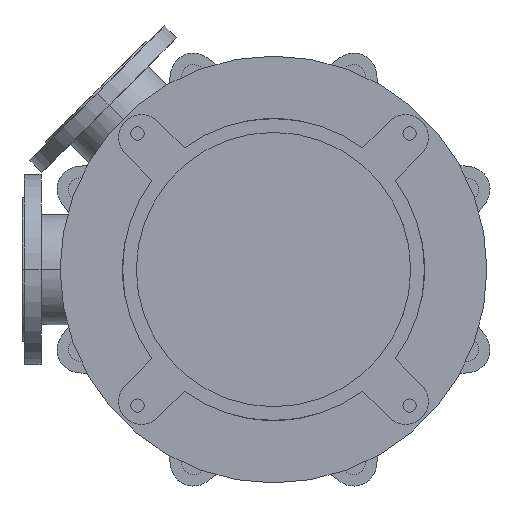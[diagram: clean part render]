
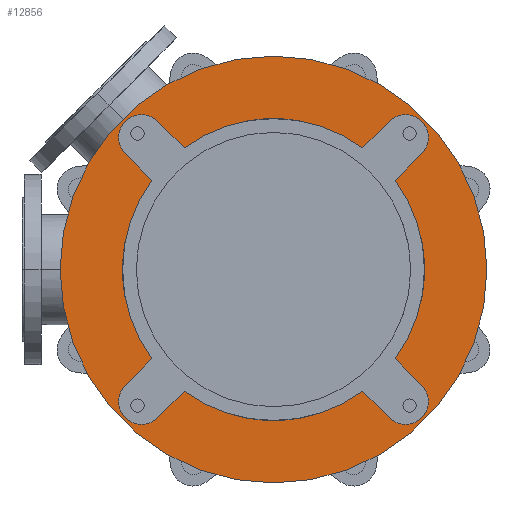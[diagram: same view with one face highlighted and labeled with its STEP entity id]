
A CAD part, front view. The second image highlights one B-rep face of the part: STEP entity #12856.
In plain terms, the highlighted planar face has unit normal (0, -1, 0).
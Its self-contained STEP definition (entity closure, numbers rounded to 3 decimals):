
#2487=CARTESIAN_POINT('',(0.,-25.,0.));
#2488=DIRECTION('',(0.,1.,0.));
#2489=DIRECTION('',(0.592,0.,-0.806));
#2490=AXIS2_PLACEMENT_3D('',#2487,#2488,#2489);
#2505=CARTESIAN_POINT('',(0.,-25.,0.));
#2506=DIRECTION('',(0.,1.,0.));
#2507=DIRECTION('',(0.806,0.,0.592));
#2508=AXIS2_PLACEMENT_3D('',#2505,#2506,#2507);
#2532=CARTESIAN_POINT('',(0.,-25.,0.));
#2533=DIRECTION('',(0.,1.,0.));
#2534=DIRECTION('',(-0.806,0.,-0.592));
#2535=AXIS2_PLACEMENT_3D('',#2532,#2533,#2534);
#2541=CARTESIAN_POINT('',(0.,-25.,0.));
#2542=DIRECTION('',(0.,1.,0.));
#2543=DIRECTION('',(-0.592,0.,0.806));
#2544=AXIS2_PLACEMENT_3D('',#2541,#2542,#2543);
#2719=CARTESIAN_POINT('',(0.,-25.,0.));
#2720=DIRECTION('',(0.,-1.,0.));
#2721=DIRECTION('',(-1.,0.,0.));
#2722=AXIS2_PLACEMENT_3D('',#2719,#2720,#2721);
#2724=CARTESIAN_POINT('',(0.,-25.,0.));
#2725=DIRECTION('',(0.,1.,0.));
#2726=DIRECTION('',(-1.,0.,0.));
#2727=AXIS2_PLACEMENT_3D('',#2724,#2725,#2726);
#2729=CARTESIAN_POINT('',(-173.241,-25.,173.241));
#2730=DIRECTION('',(0.,-1.,0.));
#2731=DIRECTION('',(0.707,0.,0.707));
#2732=AXIS2_PLACEMENT_3D('',#2729,#2730,#2731);
#2734=DIRECTION('',(0.707,0.,-0.707));
#2735=VECTOR('',#2734,49.286);
#2736=CARTESIAN_POINT('',(-194.454,-25.,152.028));
#2737=LINE('',#2736,#2735);
#2738=DIRECTION('',(-0.707,0.,-0.707));
#2739=VECTOR('',#2738,49.286);
#2740=CARTESIAN_POINT('',(-159.604,-25.,-117.178));
#2741=LINE('',#2740,#2739);
#2742=CARTESIAN_POINT('',(-173.241,-25.,-173.241));
#2743=DIRECTION('',(0.,-1.,0.));
#2744=DIRECTION('',(-0.707,0.,0.707));
#2745=AXIS2_PLACEMENT_3D('',#2742,#2743,#2744);
#2747=DIRECTION('',(0.707,0.,0.707));
#2748=VECTOR('',#2747,49.286);
#2749=CARTESIAN_POINT('',(-152.028,-25.,-194.454));
#2750=LINE('',#2749,#2748);
#2751=DIRECTION('',(0.707,0.,-0.707));
#2752=VECTOR('',#2751,49.286);
#2753=CARTESIAN_POINT('',(117.178,-25.,-159.604));
#2754=LINE('',#2753,#2752);
#2755=CARTESIAN_POINT('',(173.241,-25.,-173.241));
#2756=DIRECTION('',(0.,-1.,0.));
#2757=DIRECTION('',(-0.707,0.,-0.707));
#2758=AXIS2_PLACEMENT_3D('',#2755,#2756,#2757);
#2760=DIRECTION('',(-0.707,0.,0.707));
#2761=VECTOR('',#2760,49.286);
#2762=CARTESIAN_POINT('',(194.454,-25.,-152.028));
#2763=LINE('',#2762,#2761);
#2764=DIRECTION('',(0.707,0.,0.707));
#2765=VECTOR('',#2764,49.286);
#2766=CARTESIAN_POINT('',(159.604,-25.,117.178));
#2767=LINE('',#2766,#2765);
#2768=CARTESIAN_POINT('',(173.241,-25.,173.241));
#2769=DIRECTION('',(0.,-1.,0.));
#2770=DIRECTION('',(0.707,0.,-0.707));
#2771=AXIS2_PLACEMENT_3D('',#2768,#2769,#2770);
#2773=DIRECTION('',(-0.707,0.,-0.707));
#2774=VECTOR('',#2773,49.286);
#2775=CARTESIAN_POINT('',(152.028,-25.,194.454));
#2776=LINE('',#2775,#2774);
#2777=DIRECTION('',(-0.707,0.,0.707));
#2778=VECTOR('',#2777,49.286);
#2779=CARTESIAN_POINT('',(-117.178,-25.,159.604));
#2780=LINE('',#2779,#2778);
#8387=CARTESIAN_POINT('',(-280.,-25.,0.));
#8388=CARTESIAN_POINT('',(280.,-25.,0.));
#8389=VERTEX_POINT('',#8387);
#8390=VERTEX_POINT('',#8388);
#8411=CARTESIAN_POINT('',(-194.454,-25.,-152.028));
#8412=CARTESIAN_POINT('',(-152.028,-25.,-194.454));
#8413=VERTEX_POINT('',#8411);
#8414=VERTEX_POINT('',#8412);
#8415=CARTESIAN_POINT('',(-117.178,-25.,-159.604));
#8416=VERTEX_POINT('',#8415);
#8417=CARTESIAN_POINT('',(-159.604,-25.,-117.178));
#8418=VERTEX_POINT('',#8417);
#8427=CARTESIAN_POINT('',(152.028,-25.,-194.454));
#8428=CARTESIAN_POINT('',(194.454,-25.,-152.028));
#8429=VERTEX_POINT('',#8427);
#8430=VERTEX_POINT('',#8428);
#8431=CARTESIAN_POINT('',(159.604,-25.,-117.178));
#8432=VERTEX_POINT('',#8431);
#8433=CARTESIAN_POINT('',(117.178,-25.,-159.604));
#8434=VERTEX_POINT('',#8433);
#8443=CARTESIAN_POINT('',(194.454,-25.,152.028));
#8444=CARTESIAN_POINT('',(152.028,-25.,194.454));
#8445=VERTEX_POINT('',#8443);
#8446=VERTEX_POINT('',#8444);
#8447=CARTESIAN_POINT('',(117.178,-25.,159.604));
#8448=VERTEX_POINT('',#8447);
#8449=CARTESIAN_POINT('',(159.604,-25.,117.178));
#8450=VERTEX_POINT('',#8449);
#8459=CARTESIAN_POINT('',(-152.028,-25.,194.454));
#8460=CARTESIAN_POINT('',(-194.454,-25.,152.028));
#8461=VERTEX_POINT('',#8459);
#8462=VERTEX_POINT('',#8460);
#8463=CARTESIAN_POINT('',(-159.604,-25.,117.178));
#8464=VERTEX_POINT('',#8463);
#8465=CARTESIAN_POINT('',(-117.178,-25.,159.604));
#8466=VERTEX_POINT('',#8465);
#12816=CARTESIAN_POINT('',(0.,-25.,0.));
#12817=DIRECTION('',(0.,-1.,0.));
#12818=DIRECTION('',(-1.,0.,0.));
#12819=AXIS2_PLACEMENT_3D('',#12816,#12817,#12818);
#12820=PLANE('',#12819);
#12822=ORIENTED_EDGE('',*,*,#12821,.F.);
#12824=ORIENTED_EDGE('',*,*,#12823,.T.);
#12825=EDGE_LOOP('',(#12822,#12824));
#12826=FACE_OUTER_BOUND('',#12825,.F.);
#12828=ORIENTED_EDGE('',*,*,#12827,.T.);
#12830=ORIENTED_EDGE('',*,*,#12829,.T.);
#12831=ORIENTED_EDGE('',*,*,#12769,.F.);
#12833=ORIENTED_EDGE('',*,*,#12832,.T.);
#12835=ORIENTED_EDGE('',*,*,#12834,.T.);
#12837=ORIENTED_EDGE('',*,*,#12836,.T.);
#12838=ORIENTED_EDGE('',*,*,#12722,.F.);
#12839=ORIENTED_EDGE('',*,*,#12806,.T.);
#12841=ORIENTED_EDGE('',*,*,#12840,.T.);
#12843=ORIENTED_EDGE('',*,*,#12842,.T.);
#12844=ORIENTED_EDGE('',*,*,#12743,.F.);
#12846=ORIENTED_EDGE('',*,*,#12845,.T.);
#12848=ORIENTED_EDGE('',*,*,#12847,.T.);
#12850=ORIENTED_EDGE('',*,*,#12849,.T.);
#12851=ORIENTED_EDGE('',*,*,#12787,.F.);
#12853=ORIENTED_EDGE('',*,*,#12852,.T.);
#12854=EDGE_LOOP('',(#12828,#12830,#12831,#12833,#12835,#12837,#12838,#12839,
#12841,#12843,#12844,#12846,#12848,#12850,#12851,#12853));
#12855=FACE_BOUND('',#12854,.F.);
#12856=ADVANCED_FACE('',(#12826,#12855),#12820,.T.);
#2491=CIRCLE('',#2490,198.);
#2509=CIRCLE('',#2508,198.);
#2536=CIRCLE('',#2535,198.);
#2545=CIRCLE('',#2544,198.);
#2723=CIRCLE('',#2722,280.);
#2728=CIRCLE('',#2727,280.);
#2733=CIRCLE('',#2732,30.);
#2746=CIRCLE('',#2745,30.);
#2759=CIRCLE('',#2758,30.);
#2772=CIRCLE('',#2771,30.);
#12722=EDGE_CURVE('',#8434,#8416,#2491,.T.);
#12743=EDGE_CURVE('',#8450,#8432,#2509,.T.);
#12769=EDGE_CURVE('',#8418,#8464,#2536,.T.);
#12787=EDGE_CURVE('',#8466,#8448,#2545,.T.);
#12806=EDGE_CURVE('',#8434,#8429,#2754,.T.);
#12821=EDGE_CURVE('',#8389,#8390,#2723,.T.);
#12823=EDGE_CURVE('',#8389,#8390,#2728,.T.);
#12827=EDGE_CURVE('',#8461,#8462,#2733,.T.);
#12829=EDGE_CURVE('',#8462,#8464,#2737,.T.);
#12832=EDGE_CURVE('',#8418,#8413,#2741,.T.);
#12834=EDGE_CURVE('',#8413,#8414,#2746,.T.);
#12836=EDGE_CURVE('',#8414,#8416,#2750,.T.);
#12840=EDGE_CURVE('',#8429,#8430,#2759,.T.);
#12842=EDGE_CURVE('',#8430,#8432,#2763,.T.);
#12845=EDGE_CURVE('',#8450,#8445,#2767,.T.);
#12847=EDGE_CURVE('',#8445,#8446,#2772,.T.);
#12849=EDGE_CURVE('',#8446,#8448,#2776,.T.);
#12852=EDGE_CURVE('',#8466,#8461,#2780,.T.);
